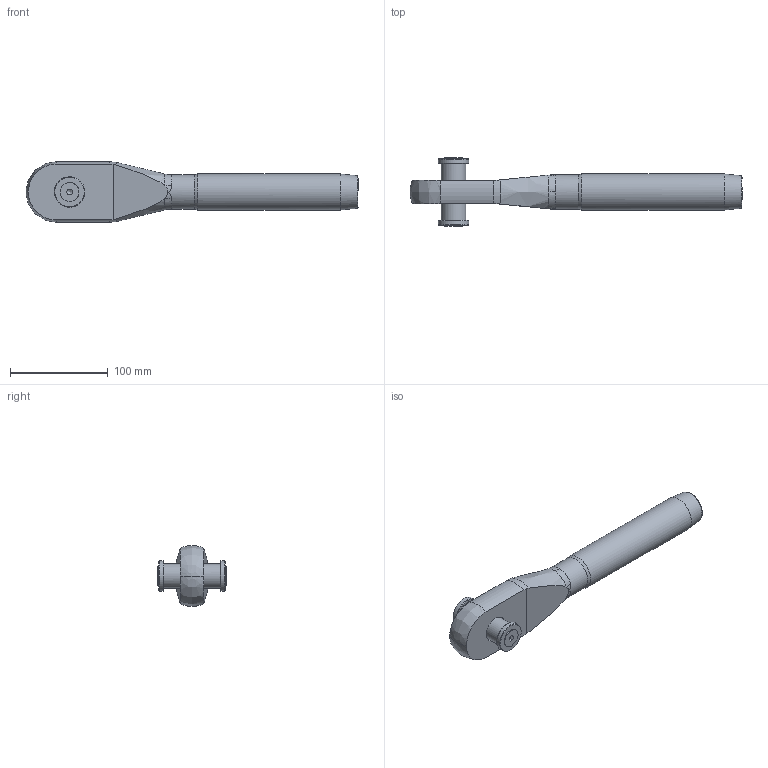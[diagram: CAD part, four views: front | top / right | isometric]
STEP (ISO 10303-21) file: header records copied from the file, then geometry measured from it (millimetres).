
FILE_DESCRIPTION(/* description */ (''),/* implementation_level */ '2;1');
FILE_NAME(/* name */ 'MCC 18_42CrMo4',/* time_stamp */ '2023-05-23T15:41:00+02:00',/* author */ (''),/* organization */ (''),/* preprocessor_version */ 'ST-DEVELOPER v16.5',/* originating_system */ 'Rhino 7.22',/* authorisation */ '');
FILE_SCHEMA (('CONFIG_CONTROL_DESIGN'));
Length unit declared in the file: millimetre
Products named in the file (1): Document
Bounding box: 339 x 69.91 x 62 mm (x, y, z)
Volume: 414974.8 mm3; surface area: 58994.7 mm2
Topology: 6 solids, 6 shells, 74 faces, 203 edges, 135 vertices
Faces by surface type: bspline 31, plane 27, cylinder 16
Full cylindrical faces by diameter (mm): 8.376 x2, 10 x2, 10.5 x2, 19.22 x2, 25 x1, 27 x1, 31 x2, 35 x1, 36.8 x1
Entity records: 3245 total; most frequent: CARTESIAN_POINT 1990, ORIENTED_EDGE 386, EDGE_CURVE 193, VERTEX_POINT 135, EDGE_LOOP 84, ADVANCED_FACE 74, FACE_OUTER_BOUND 74, B_SPLINE_CURVE_WITH_KNOTS 64
